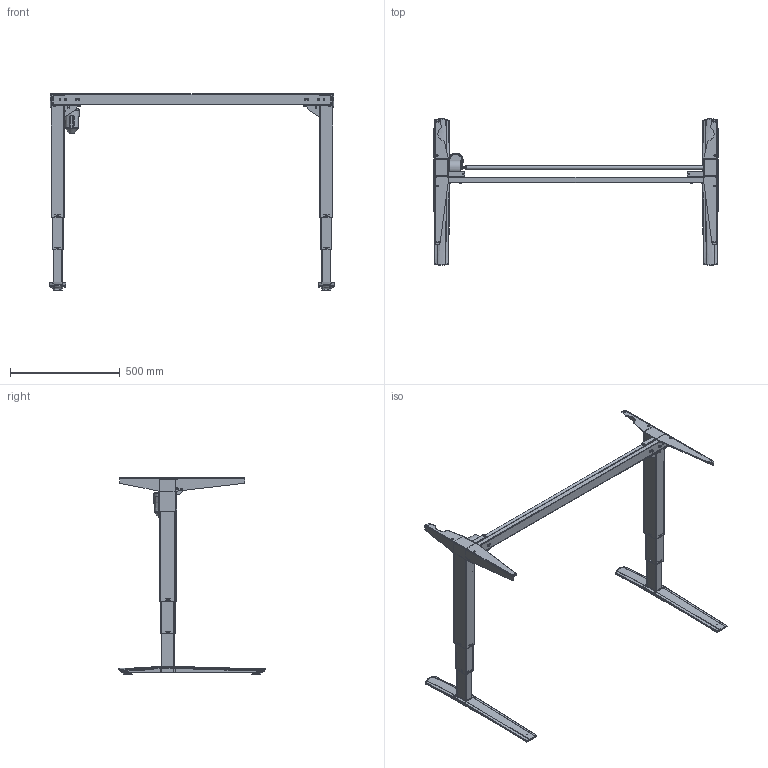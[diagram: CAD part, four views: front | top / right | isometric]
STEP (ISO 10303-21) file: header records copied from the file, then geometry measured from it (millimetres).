
FILE_DESCRIPTION (( 'STEP AP203' ), '1' );
FILE_NAME ('Tech-draw_501-43_XX129.STEP', '2019-09-25T11:15:41', ( '' ), ( '' ), 'SwSTEP 2.0', 'SolidWorks 2018', '' );
FILE_SCHEMA (( 'CONFIG_CONTROL_DESIGN' ));
Length unit declared in the file: millimetre
Products named in the file (34): 324520_silver; 340460_shell view; 141090_silver; 340450_shell view; 148880_501-43 XS129; Tech-draw_501-43_XX129; 344430_silver; 141110_silver1; 344550; 347910_129; 340560; 340970; 348720_shell view; 341800_silver; 340440; 347920_129; 344560; 332570; 340510_shell view; 144260_129; 141070_silver; 141060_silver; 134530_silver1; 345190_shell view; 352610; 141100_silver1; 340520_shell view; 340760; 141080_silver; 341220; 134470_silver1; 134500_silver1; 345200; 340540_shell view
Assembly tree (61 placements, depth 6):
  Tech-draw_501-43_XX129
    148880_501-43 XS129
      347910_129
      144260_129
        347920_129
        340560
        341220
      141070_silver
        134500_silver1
          340440
          340520_shell view
          348720_shell view
          344550
        141090_silver
          141110_silver1
            340460_shell view
            345190_shell view
            345200
          134530_silver1
            340450_shell view
          341800_silver  x4
        341800_silver  x4
        344430_silver
        324520_silver  x2
        352610
      141060_silver
        134470_silver1
          340970
          340510_shell view
          340540_shell view
          344560
        141080_silver
          141100_silver1
            340460_shell view
            345190_shell view
            345200
          134530_silver1
            340450_shell view
          341800_silver  x4
        341800_silver  x4
        324520_silver  x2
      340760  x4
      332570  x4
Bounding box: 1297 x 668.35 x 895.2 mm (x, y, z)
Volume: 2626142.4 mm3; surface area: 2825161.5 mm2
Topology: 50 solids, 50 shells, 3310 faces, 8617 edges, 5464 vertices
Faces by surface type: plane 1775, cylinder 953, bspline 454, cone 77, torus 51
Full cylindrical faces by diameter (mm): 2.8 x4, 3 x2, 4.6 x4, 5 x4, 6 x10, 7 x8, 7.4 x4, 7.6 x4, 8 x13, 8.05 x4, 10 x8, 11.9 x2, 12 x1, 13 x2, 15 x4, 16 x2, 18 x1, 20 x1, 37.6 x8, 60 x1
Entity records: 99427 total; most frequent: CARTESIAN_POINT 52308, ORIENTED_EDGE 9418, DIRECTION 8197, EDGE_CURVE 4709, VERTEX_POINT 3067, AXIS2_PLACEMENT_3D 2964, VECTOR 2269, LINE 2269
